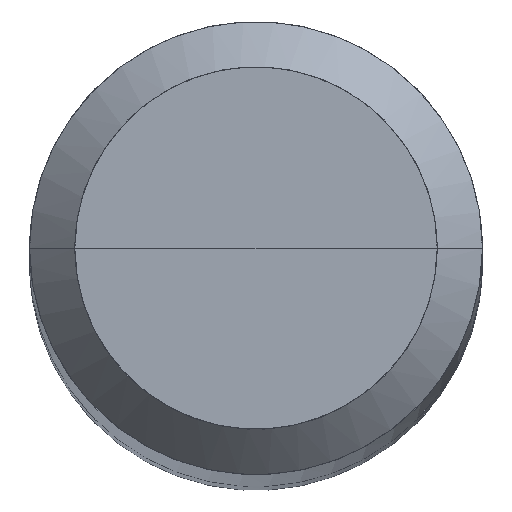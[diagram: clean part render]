
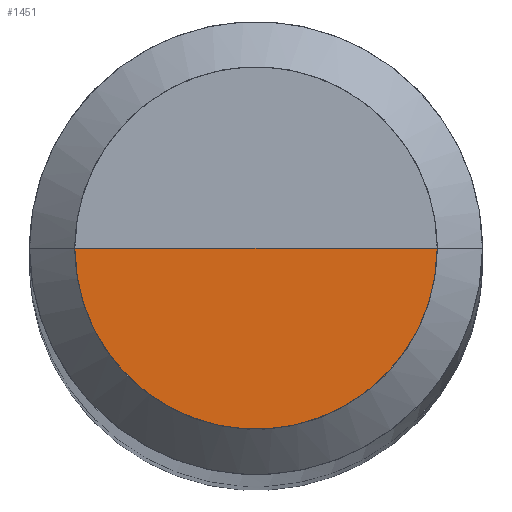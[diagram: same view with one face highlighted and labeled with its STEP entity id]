
A CAD part, top view. The second image highlights one B-rep face of the part: STEP entity #1451.
In plain terms, the highlighted free-form (B-spline) face has degree [1, 2] with [2, 5] control points.
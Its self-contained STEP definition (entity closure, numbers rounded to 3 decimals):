
#1183=CARTESIAN_POINT('',(4.0,0.0,150.0));
#1187=CARTESIAN_POINT('',(-4.0,0.0,150.0));
#1188=CARTESIAN_POINT('',(0.0,0.0,150.0));
#1192=CARTESIAN_POINT('',(-4.0,-4.0,150.0));
#1193=CARTESIAN_POINT('',(0.0,-4.0,150.0));
#1194=CARTESIAN_POINT('',(4.0,-4.0,150.0));
#1436=(
BOUNDED_SURFACE()
B_SPLINE_SURFACE(1,2,(
(#1187,#1192,#1193,#1194,#1183),
(#1188,#1188,#1188,#1188,#1188)
), .UNSPECIFIED.,.F.,.F.,.F.)
B_SPLINE_SURFACE_WITH_KNOTS((2,2),(3,2,3),(
0.0,1.0),(
0.0,0.5,1.0), .UNSPECIFIED.)
GEOMETRIC_REPRESENTATION_ITEM()
RATIONAL_B_SPLINE_SURFACE(((1.0,0.707,1.0,0.707,1.0),
(1.0,0.707,1.0,0.707,1.0)
))
REPRESENTATION_ITEM('')
SURFACE()
);
#1437=(
BOUNDED_CURVE()
B_SPLINE_CURVE(2,(#1183,#1194,#1193,#1192,#1187),.UNSPECIFIED.,.F.,.F.)
B_SPLINE_CURVE_WITH_KNOTS((3,2,3),
(0.0,0.5,1.0),.UNSPECIFIED.)
CURVE()
GEOMETRIC_REPRESENTATION_ITEM()
RATIONAL_B_SPLINE_CURVE((1.0,0.707,1.0,0.707,1.0))
REPRESENTATION_ITEM('')
);
#1438=(
BOUNDED_CURVE()
B_SPLINE_CURVE(1,(#1187,#1188),.UNSPECIFIED.,.F.,.F.)
B_SPLINE_CURVE_WITH_KNOTS((2,2),
(0.0,1.0),.UNSPECIFIED.)
CURVE()
GEOMETRIC_REPRESENTATION_ITEM()
RATIONAL_B_SPLINE_CURVE((1.0,1.0))
REPRESENTATION_ITEM('')
);
#1439=(
BOUNDED_CURVE()
B_SPLINE_CURVE(1,(#1188,#1183),.UNSPECIFIED.,.F.,.F.)
B_SPLINE_CURVE_WITH_KNOTS((2,2),
(0.0,1.0),.UNSPECIFIED.)
CURVE()
GEOMETRIC_REPRESENTATION_ITEM()
RATIONAL_B_SPLINE_CURVE((1.0,1.0))
REPRESENTATION_ITEM('')
);
#1440=VERTEX_POINT('',#1183);
#1441=VERTEX_POINT('',#1187);
#1442=VERTEX_POINT('',#1188);
#1443=EDGE_CURVE('',#1440,#1441,#1437,.T.);
#1444=EDGE_CURVE('',#1441,#1442,#1438,.T.);
#1445=EDGE_CURVE('',#1442,#1440,#1439,.T.);
#1446=ORIENTED_EDGE('',*,*,#1443,.T.);
#1447=ORIENTED_EDGE('',*,*,#1444,.T.);
#1448=ORIENTED_EDGE('',*,*,#1445,.T.);
#1449=EDGE_LOOP('',(#1446,#1447,#1448));
#1450=FACE_OUTER_BOUND('',#1449,.T.);
#1451=ADVANCED_FACE('',(#1450),#1436,.T.);
